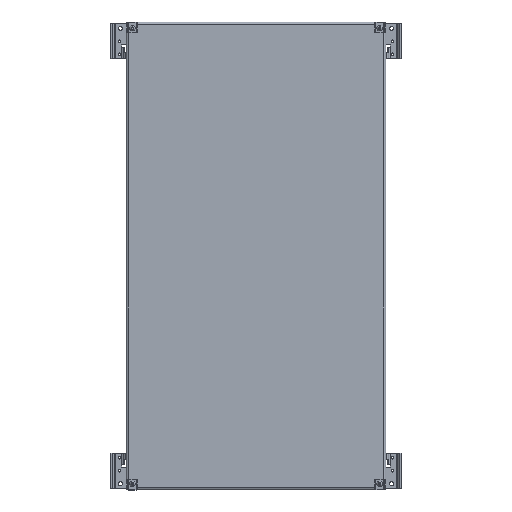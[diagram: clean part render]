
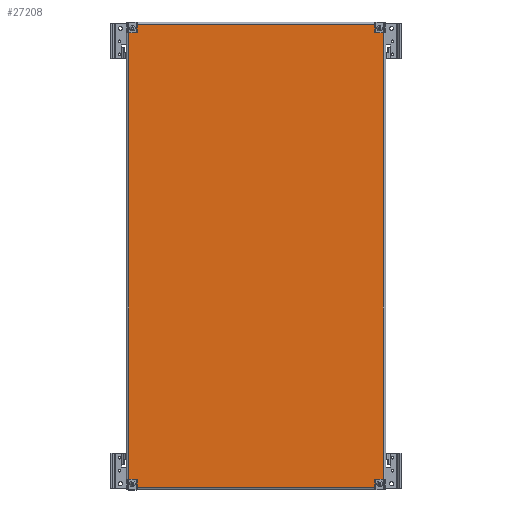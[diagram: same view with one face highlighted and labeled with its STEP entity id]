
A CAD part, top view. The second image highlights one B-rep face of the part: STEP entity #27208.
In plain terms, the highlighted planar face has unit normal (0, 0, 1).
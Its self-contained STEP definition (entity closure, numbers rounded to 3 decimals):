
#74 = DIRECTION ( 'NONE',  ( 1., 0., 0. ) ) ;
#131 = EDGE_CURVE ( 'NONE', #4354, #36222, #4073, .T. ) ;
#2091 = AXIS2_PLACEMENT_3D ( 'NONE', #35929, #3539, #9999 ) ;
#2482 = LINE ( 'NONE', #28299, #14605 ) ;
#3092 = CIRCLE ( 'NONE', #10397, 1. ) ;
#3140 = CARTESIAN_POINT ( 'NONE',  ( 249.5, 428.5, 0. ) ) ;
#3180 = ORIENTED_EDGE ( 'NONE', *, *, #131, .T. ) ;
#3539 = DIRECTION ( 'NONE',  ( 0., 0., -1. ) ) ;
#3740 = VECTOR ( 'NONE', #15950, 1000. ) ;
#3839 = ORIENTED_EDGE ( 'NONE', *, *, #7823, .F. ) ;
#3870 = EDGE_CURVE ( 'NONE', #8071, #39180, #21921, .T. ) ;
#3892 = AXIS2_PLACEMENT_3D ( 'NONE', #9003, #18738, #12543 ) ;
#3920 = EDGE_CURVE ( 'NONE', #21852, #39180, #12908, .T. ) ;
#3937 = DIRECTION ( 'NONE',  ( 1., 0., 0. ) ) ;
#4073 = CIRCLE ( 'NONE', #32412, 1. ) ;
#4160 = LINE ( 'NONE', #16796, #32751 ) ;
#4264 = EDGE_CURVE ( 'NONE', #39568, #36222, #39403, .T. ) ;
#4354 = VERTEX_POINT ( 'NONE', #10723 ) ;
#4910 = VECTOR ( 'NONE', #30042, 1000. ) ;
#5322 = CARTESIAN_POINT ( 'NONE',  ( 229.5, 429.5, 0. ) ) ;
#5549 = DIRECTION ( 'NONE',  ( 1., 0., 0. ) ) ;
#6261 = DIRECTION ( 'NONE',  ( 0., 1., 0. ) ) ;
#6326 = VECTOR ( 'NONE', #28505, 1000. ) ;
#6463 = CARTESIAN_POINT ( 'NONE',  ( -229.5, -428.5, 0. ) ) ;
#6504 = FACE_OUTER_BOUND ( 'NONE', #32924, .T. ) ;
#7199 = CARTESIAN_POINT ( 'NONE',  ( 244.5, -428.5, 0. ) ) ;
#7823 = EDGE_CURVE ( 'NONE', #8071, #7879, #34992, .T. ) ;
#7879 = VERTEX_POINT ( 'NONE', #14624 ) ;
#8071 = VERTEX_POINT ( 'NONE', #6463 ) ;
#8428 = DIRECTION ( 'NONE',  ( -1., 0., 0. ) ) ;
#8971 = LINE ( 'NONE', #3140, #30924 ) ;
#9003 = CARTESIAN_POINT ( 'NONE',  ( 0., 0., 0. ) ) ;
#9140 = LINE ( 'NONE', #28696, #6326 ) ;
#9218 = DIRECTION ( 'NONE',  ( -1., 0., 0. ) ) ;
#9796 = CARTESIAN_POINT ( 'NONE',  ( -228.5, -449.5, 0. ) ) ;
#9829 = ORIENTED_EDGE ( 'NONE', *, *, #13124, .T. ) ;
#9999 = DIRECTION ( 'NONE',  ( 1., 0., 0. ) ) ;
#10397 = AXIS2_PLACEMENT_3D ( 'NONE', #31149, #25177, #22103 ) ;
#10439 = EDGE_CURVE ( 'NONE', #36634, #10784, #4160, .T. ) ;
#10723 = CARTESIAN_POINT ( 'NONE',  ( 228.5, -429.5, 0. ) ) ;
#10784 = VERTEX_POINT ( 'NONE', #18332 ) ;
#11221 = VECTOR ( 'NONE', #74, 1000. ) ;
#11617 = DIRECTION ( 'NONE',  ( -1., 0., 0. ) ) ;
#11975 = VECTOR ( 'NONE', #8428, 1000. ) ;
#12226 = EDGE_CURVE ( 'NONE', #18530, #27622, #20060, .T. ) ;
#12452 = DIRECTION ( 'NONE',  ( 0., -1., 0. ) ) ;
#12543 = DIRECTION ( 'NONE',  ( 1., 0., 0. ) ) ;
#12813 = AXIS2_PLACEMENT_3D ( 'NONE', #5322, #18140, #21045 ) ;
#12908 = LINE ( 'NONE', #9796, #19263 ) ;
#13124 = EDGE_CURVE ( 'NONE', #30905, #31020, #30353, .T. ) ;
#14605 = VECTOR ( 'NONE', #12452, 1000. ) ;
#14624 = CARTESIAN_POINT ( 'NONE',  ( -244.5, -428.5, 0. ) ) ;
#15549 = CARTESIAN_POINT ( 'NONE',  ( 229.5, -428.5, 0. ) ) ;
#15950 = DIRECTION ( 'NONE',  ( 0., -1., 0. ) ) ;
#16336 = ORIENTED_EDGE ( 'NONE', *, *, #24348, .F. ) ;
#16640 = EDGE_CURVE ( 'NONE', #37150, #31020, #9140, .T. ) ;
#16796 = CARTESIAN_POINT ( 'NONE',  ( -249.5, 428.5, 0. ) ) ;
#17728 = CARTESIAN_POINT ( 'NONE',  ( 228.5, 449.5, 0. ) ) ;
#17866 = EDGE_CURVE ( 'NONE', #4354, #34964, #38800, .T. ) ;
#18140 = DIRECTION ( 'NONE',  ( 0., 0., -1. ) ) ;
#18332 = CARTESIAN_POINT ( 'NONE',  ( -229.5, 428.5, 0. ) ) ;
#18530 = VERTEX_POINT ( 'NONE', #37681 ) ;
#18738 = DIRECTION ( 'NONE',  ( 0., 0., 1. ) ) ;
#18929 = CARTESIAN_POINT ( 'NONE',  ( -228.5, -429.5, 0. ) ) ;
#19263 = VECTOR ( 'NONE', #6261, 1000. ) ;
#19660 = CARTESIAN_POINT ( 'NONE',  ( 228.5, 429.5, 0. ) ) ;
#20060 = CIRCLE ( 'NONE', #12813, 1. ) ;
#20647 = EDGE_CURVE ( 'NONE', #21852, #34964, #21621, .T. ) ;
#21045 = DIRECTION ( 'NONE',  ( 1., 0., 0. ) ) ;
#21108 = CARTESIAN_POINT ( 'NONE',  ( 244.5, 428.5, 0. ) ) ;
#21265 = VECTOR ( 'NONE', #9218, 1000. ) ;
#21621 = LINE ( 'NONE', #34173, #11221 ) ;
#21852 = VERTEX_POINT ( 'NONE', #24354 ) ;
#21921 = CIRCLE ( 'NONE', #2091, 1. ) ;
#22103 = DIRECTION ( 'NONE',  ( 1., 0., 0. ) ) ;
#22567 = VECTOR ( 'NONE', #32542, 1000. ) ;
#24348 = EDGE_CURVE ( 'NONE', #18530, #25696, #8971, .T. ) ;
#24354 = CARTESIAN_POINT ( 'NONE',  ( -228.5, -444.5, 0. ) ) ;
#24934 = ORIENTED_EDGE ( 'NONE', *, *, #20647, .T. ) ;
#25177 = DIRECTION ( 'NONE',  ( 0., 0., -1. ) ) ;
#25264 = DIRECTION ( 'NONE',  ( 1., 0., 0. ) ) ;
#25696 = VERTEX_POINT ( 'NONE', #21108 ) ;
#25797 = EDGE_CURVE ( 'NONE', #37150, #10784, #3092, .T. ) ;
#26389 = CARTESIAN_POINT ( 'NONE',  ( 249.5, -428.5, 0. ) ) ;
#27208 = ADVANCED_FACE ( 'NONE', ( #6504 ), #37267, .T. ) ;
#27297 = CARTESIAN_POINT ( 'NONE',  ( -228.5, 429.5, 0. ) ) ;
#27428 = ORIENTED_EDGE ( 'NONE', *, *, #12226, .T. ) ;
#27622 = VERTEX_POINT ( 'NONE', #19660 ) ;
#27833 = LINE ( 'NONE', #34238, #22567 ) ;
#28232 = EDGE_CURVE ( 'NONE', #36634, #7879, #2482, .T. ) ;
#28299 = CARTESIAN_POINT ( 'NONE',  ( -244.5, 428.5, 0. ) ) ;
#28505 = DIRECTION ( 'NONE',  ( 0., 1., 0. ) ) ;
#28696 = CARTESIAN_POINT ( 'NONE',  ( -228.5, 449.5, 0. ) ) ;
#28984 = ORIENTED_EDGE ( 'NONE', *, *, #10439, .F. ) ;
#29052 = EDGE_CURVE ( 'NONE', #39568, #25696, #27833, .T. ) ;
#29093 = CARTESIAN_POINT ( 'NONE',  ( 228.5, -449.5, 0. ) ) ;
#29650 = LINE ( 'NONE', #17728, #4910 ) ;
#30042 = DIRECTION ( 'NONE',  ( 0., -1., 0. ) ) ;
#30353 = LINE ( 'NONE', #39038, #31941 ) ;
#30905 = VERTEX_POINT ( 'NONE', #34232 ) ;
#30924 = VECTOR ( 'NONE', #25264, 1000. ) ;
#30974 = ORIENTED_EDGE ( 'NONE', *, *, #33499, .F. ) ;
#31020 = VERTEX_POINT ( 'NONE', #37931 ) ;
#31149 = CARTESIAN_POINT ( 'NONE',  ( -229.5, 429.5, 0. ) ) ;
#31941 = VECTOR ( 'NONE', #11617, 1000. ) ;
#32259 = ORIENTED_EDGE ( 'NONE', *, *, #3870, .T. ) ;
#32412 = AXIS2_PLACEMENT_3D ( 'NONE', #39646, #36742, #5549 ) ;
#32542 = DIRECTION ( 'NONE',  ( 0., 1., 0. ) ) ;
#32751 = VECTOR ( 'NONE', #3937, 1000. ) ;
#32924 = EDGE_LOOP ( 'NONE', ( #34460, #24934, #39615, #3180, #34336, #39193, #16336, #27428, #30974, #9829, #36972, #37937, #28984, #35372, #3839, #32259 ) ) ;
#33499 = EDGE_CURVE ( 'NONE', #30905, #27622, #29650, .T. ) ;
#34173 = CARTESIAN_POINT ( 'NONE',  ( -228.5, -444.5, 0. ) ) ;
#34232 = CARTESIAN_POINT ( 'NONE',  ( 228.5, 444.5, 0. ) ) ;
#34238 = CARTESIAN_POINT ( 'NONE',  ( 244.5, -428.5, 0. ) ) ;
#34336 = ORIENTED_EDGE ( 'NONE', *, *, #4264, .F. ) ;
#34460 = ORIENTED_EDGE ( 'NONE', *, *, #3920, .F. ) ;
#34964 = VERTEX_POINT ( 'NONE', #36523 ) ;
#34992 = LINE ( 'NONE', #37494, #21265 ) ;
#35372 = ORIENTED_EDGE ( 'NONE', *, *, #28232, .T. ) ;
#35929 = CARTESIAN_POINT ( 'NONE',  ( -229.5, -429.5, 0. ) ) ;
#36222 = VERTEX_POINT ( 'NONE', #15549 ) ;
#36523 = CARTESIAN_POINT ( 'NONE',  ( 228.5, -444.5, 0. ) ) ;
#36634 = VERTEX_POINT ( 'NONE', #39825 ) ;
#36742 = DIRECTION ( 'NONE',  ( 0., 0., -1. ) ) ;
#36972 = ORIENTED_EDGE ( 'NONE', *, *, #16640, .F. ) ;
#37150 = VERTEX_POINT ( 'NONE', #27297 ) ;
#37267 = PLANE ( 'NONE',  #3892 ) ;
#37494 = CARTESIAN_POINT ( 'NONE',  ( -249.5, -428.5, 0. ) ) ;
#37681 = CARTESIAN_POINT ( 'NONE',  ( 229.5, 428.5, 0. ) ) ;
#37931 = CARTESIAN_POINT ( 'NONE',  ( -228.5, 444.5, 0. ) ) ;
#37937 = ORIENTED_EDGE ( 'NONE', *, *, #25797, .T. ) ;
#38800 = LINE ( 'NONE', #29093, #3740 ) ;
#39038 = CARTESIAN_POINT ( 'NONE',  ( 228.5, 444.5, 0. ) ) ;
#39180 = VERTEX_POINT ( 'NONE', #18929 ) ;
#39193 = ORIENTED_EDGE ( 'NONE', *, *, #29052, .T. ) ;
#39403 = LINE ( 'NONE', #26389, #11975 ) ;
#39568 = VERTEX_POINT ( 'NONE', #7199 ) ;
#39615 = ORIENTED_EDGE ( 'NONE', *, *, #17866, .F. ) ;
#39646 = CARTESIAN_POINT ( 'NONE',  ( 229.5, -429.5, 0. ) ) ;
#39825 = CARTESIAN_POINT ( 'NONE',  ( -244.5, 428.5, 0. ) ) ;
